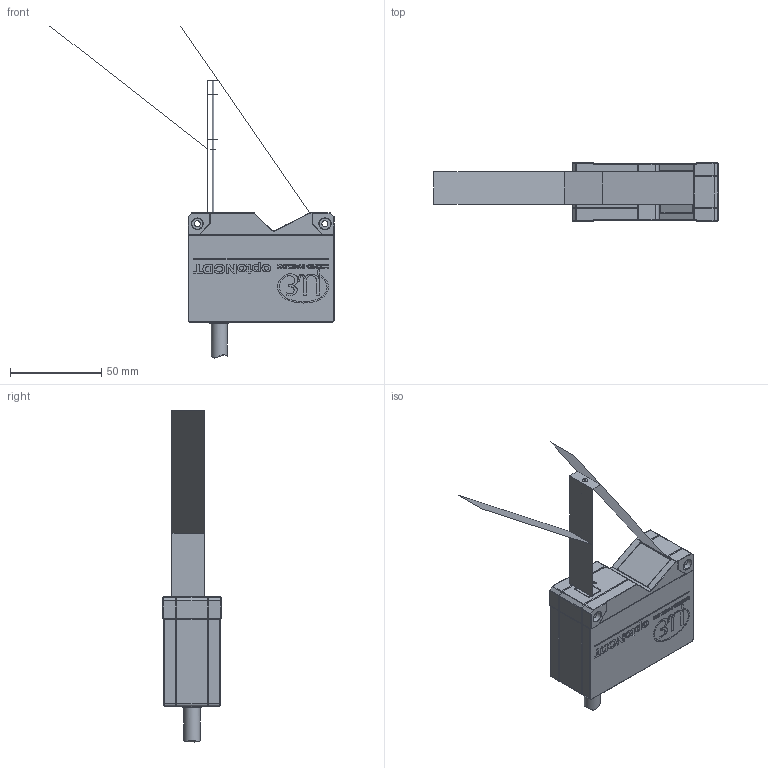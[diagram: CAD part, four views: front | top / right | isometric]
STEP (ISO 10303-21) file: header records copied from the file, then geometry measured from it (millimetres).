
FILE_DESCRIPTION (( 'STEP AP214' ), '1' );
FILE_NAME ('ILD5500-25_Sensormodell_mit_Bauraum.STEP', '2024-11-27T10:07:43', ( '' ), ( '' ), 'SwSTEP 2.0', 'SolidWorks 2022', '' );
FILE_SCHEMA (( 'AUTOMOTIVE_DESIGN' ));
Length unit declared in the file: millimetre
Products named in the file (1): ILD5500-25_Sensormodell_mit_Bauraum
Bounding box: 155.9 x 32 x 182.16 mm (x, y, z)
Surface area: 27179.2 mm2 (no closed solid volume)
Topology: 0 solids, 12 shells, 1685 faces, 4460 edges, 2911 vertices
Faces by surface type: plane 820, bspline 673, cylinder 116, cone 62, torus 14
Full cylindrical faces by diameter (mm): 0.7 x1, 0.8 x1, 2.4 x2, 3.3 x2, 3.5 x1, 6 x2, 8.8 x1, 10 x2, 10.5 x2
Entity records: 81042 total; most frequent: CARTESIAN_POINT 25668, ORIENTED_EDGE 8790, DIRECTION 5330, EDGE_CURVE 4405, VERTEX_POINT 2893, LINE 2750, VECTOR 2750, EDGE_LOOP 1845
